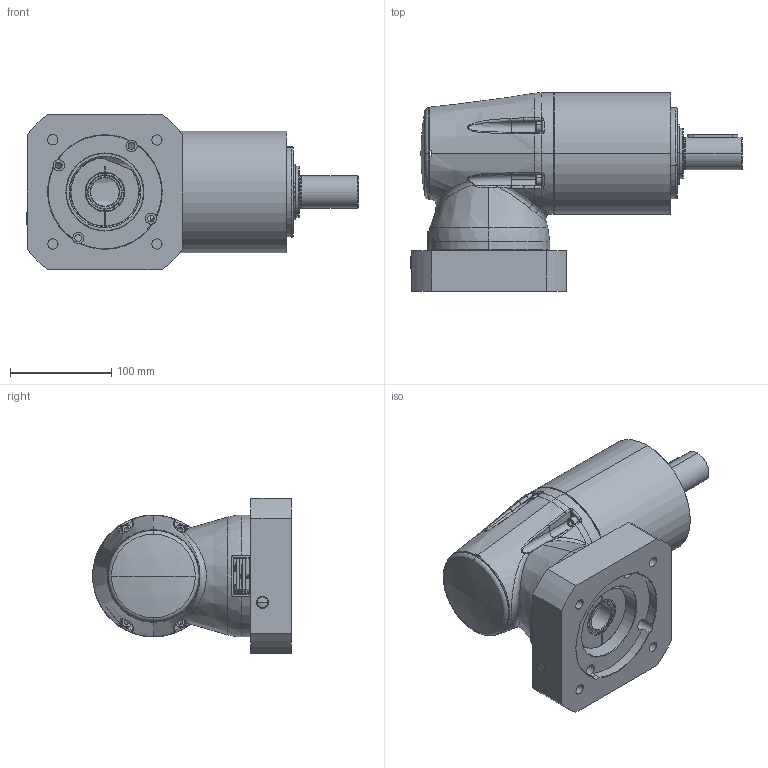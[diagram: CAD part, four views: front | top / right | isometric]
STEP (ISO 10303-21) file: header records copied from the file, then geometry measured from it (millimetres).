
FILE_DESCRIPTION (( 'STEP AP214' ), '1' );
FILE_NAME ('RL-030-RRR-FFF-MMM-S-LL-XXX-CXX-0000.STEP', '2019-10-30T15:08:17', ( '' ), ( '' ), 'SwSTEP 2.0', 'SolidWorks 2019', '' );
FILE_SCHEMA (( 'AUTOMOTIVE_DESIGN' ));
Length unit declared in the file: millimetre
Products named in the file (1): RL-030-RRR-FFF-MMM-S-LL-XXX-CXX-0000
Bounding box: 327.27 x 196 x 153 mm (x, y, z)
Surface area: 231350 mm2 (no closed solid volume)
Topology: 0 solids, 55 shells, 406 faces, 2010 edges, 1645 vertices
Faces by surface type: plane 120, cylinder 106, cone 67, bspline 56, torus 53, sphere 4
Entity records: 32195 total; most frequent: CARTESIAN_POINT 13182, ORIENTED_EDGE 2762, DIRECTION 2550, EDGE_CURVE 2002, VERTEX_POINT 1645, VECTOR 874, LINE 874, AXIS2_PLACEMENT_3D 838
